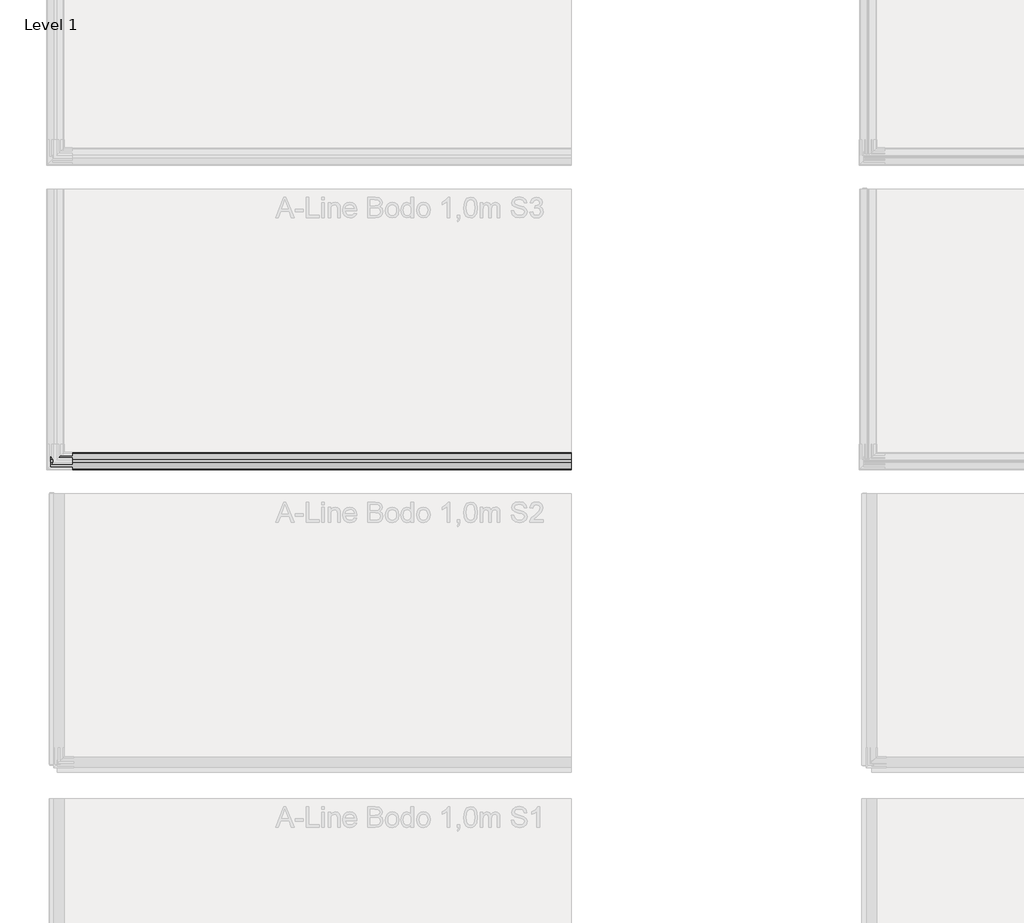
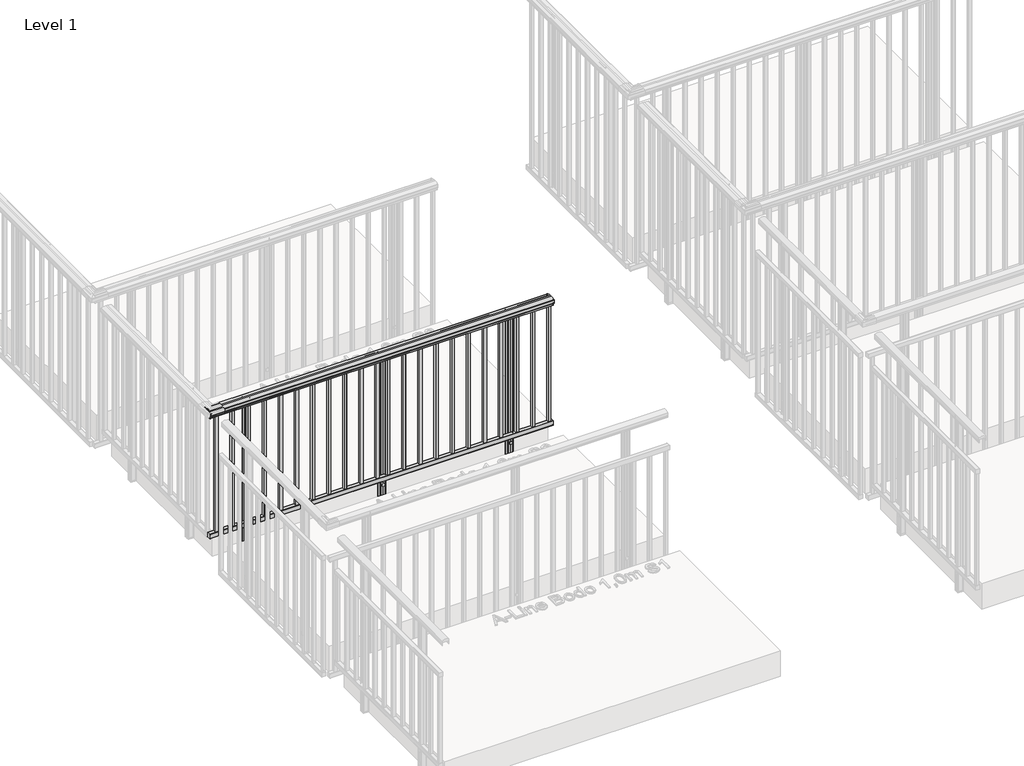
# One storey, part 9 of 66: 1 railing.
"""IFC4 building model written with IfcOpenShell, lengths in millimetres."""

from ifc_helpers import new_model, si_unit, point, frame, frame_2d, origin, place, context, project, spatial, polyline, circle_curve, trimmed, segment, composite_curve, outline, extrude, element, save

model = new_model("IFC4")

# Units and contexts
model_context = context("Model", 3, world=origin())
ifc_project = project(units=[si_unit("LENGTHUNIT", "METRE", prefix="MILLI")], contexts=[model_context])

# Site, building, storey
site = spatial("IfcSite", under=ifc_project)
building = spatial("IfcBuilding", under=site)
storey = spatial("IfcBuildingStorey", under=building, Name="Level 1", Elevation=0.0)

# Railing
placement = place(None, origin())
element("IfcRailing", 1, ObjectType="A-Line Bodo 1,0m S3", at=placement, inside=storey, context=model_context, shape_type="SweptSolid", body=[
    extrude(outline(composite_curve([segment(polyline([(-14649.7120598, 970.6825033), (-14649.7120598, 991.2139911)]), True, "CONTINUOUS"), segment(trimmed(circle_curve(frame_2d((-14646.7120598, 991.2139911)), 3.0), [point((-14649.7120598, 991.2139911))], [point((-14647.7785512, 994.0180233))], False, "CARTESIAN"), True, "CONTINUOUS"), segment(trimmed(circle_curve(frame_2d((-14615.2120598, 908.3938053)), 91.6083133), [point((-14647.7785512, 994.0180233))], [point((-14615.2120598, 1000.0021186))], False, "CARTESIAN"), True, "CONTINUOUS"), segment(polyline([(-14615.2120598, 1000.0021186), (-14602.2120598, 1000.0021186)]), True, "CONTINUOUS"), segment(trimmed(circle_curve(frame_2d((-14602.2120598, 908.3938053)), 91.6083133), [point((-14602.2120598, 1000.0021186))], [point((-14569.6455685, 994.0180233))], False, "CARTESIAN"), True, "CONTINUOUS"), segment(trimmed(circle_curve(frame_2d((-14570.7120598, 991.2139911)), 3.0), [point((-14569.6455685, 994.0180233))], [point((-14567.7120598, 991.2139911))], False, "CARTESIAN"), True, "CONTINUOUS"), segment(polyline([(-14567.7120598, 991.2139911), (-14567.7522522, 970.5325033), (-14568.3670352, 969.9177203), (-14567.7120598, 969.2627449), (-14567.7120598, 965.5021186)]), True, "CONTINUOUS"), segment(trimmed(circle_curve(frame_2d((-14568.2120598, 965.5021186)), 0.5), [point((-14567.7120598, 965.5021186))], [point((-14568.2120598, 965.0021186))], False, "CARTESIAN"), True, "CONTINUOUS"), segment(polyline([(-14568.2120598, 965.0021186), (-14569.2120598, 965.0021186), (-14569.2120598, 979.5021186)]), True, "CONTINUOUS"), segment(trimmed(circle_curve(frame_2d((-14569.7120598, 979.5021186)), 0.5), [point((-14569.2120598, 979.5021186))], [point((-14569.7120598, 980.0021186))], True, "CARTESIAN"), True, "CONTINUOUS"), segment(polyline([(-14569.7120598, 980.0021186), (-14647.7120598, 980.0021186)]), True, "CONTINUOUS"), segment(trimmed(circle_curve(frame_2d((-14647.7120598, 979.5021186)), 0.5), [point((-14647.7120598, 980.0021186))], [point((-14648.2120598, 979.5021186))], True, "CARTESIAN"), True, "CONTINUOUS"), segment(polyline([(-14648.2120598, 979.5021186), (-14648.2120598, 965.0021186), (-14649.2120598, 965.0021186)]), True, "CONTINUOUS"), segment(trimmed(circle_curve(frame_2d((-14649.2120598, 965.5021186)), 0.5), [point((-14649.2120598, 965.0021186))], [point((-14649.7120598, 965.5021186))], False, "CARTESIAN"), True, "CONTINUOUS"), segment(polyline([(-14649.7120598, 965.5021186), (-14649.6718675, 969.4717338), (-14649.0865789, 970.0570224), (-14649.7120598, 970.6825033)]), True, "CONTINUOUS")], self_intersect=False)), frame((4444.0547322, 0.0, 0.0), z_axis=(1.0, 0.0, 0.0), x_axis=(0.0, 1.0, 0.0)), (0.0, 0.0, 1.0), 2560.0),
    extrude(outline(composite_curve([segment(trimmed(circle_curve(frame_2d((-14638.2613559, 977.0)), 1.0), [point((-14639.2613559, 977.0))], [point((-14638.2613559, 978.0))], False, "CARTESIAN"), True, "CONTINUOUS"), segment(polyline([(-14638.2613559, 978.0), (-14611.1613559, 978.0)]), True, "CONTINUOUS"), segment(trimmed(circle_curve(frame_2d((-14611.1613559, 977.0)), 1.0), [point((-14611.1613559, 978.0))], [point((-14610.1613559, 977.0))], False, "CARTESIAN"), True, "CONTINUOUS"), segment(polyline([(-14610.1613559, 977.0), (-14610.1613559, 944.8)]), True, "CONTINUOUS"), segment(trimmed(circle_curve(frame_2d((-14611.1613559, 944.8)), 1.0), [point((-14610.1613559, 944.8))], [point((-14611.1613559, 943.8))], False, "CARTESIAN"), True, "CONTINUOUS"), segment(polyline([(-14611.1613559, 943.8), (-14638.2613559, 943.8)]), True, "CONTINUOUS"), segment(trimmed(circle_curve(frame_2d((-14638.2613559, 944.8)), 1.0), [point((-14638.2613559, 943.8))], [point((-14639.2613559, 944.8))], False, "CARTESIAN"), True, "CONTINUOUS"), segment(polyline([(-14639.2613559, 944.8), (-14639.2613559, 977.0)]), True, "CONTINUOUS")], self_intersect=False)), frame((4444.0547322, 0.0, 0.0), z_axis=(1.0, 0.0, 0.0), x_axis=(0.0, 1.0, 0.0)), (0.0, 0.0, 1.0), 2560.0),
    extrude(outline(composite_curve([segment(polyline([(-14638.2613559, 34.2), (-14611.1613559, 34.2)]), True, "CONTINUOUS"), segment(trimmed(circle_curve(frame_2d((-14611.1613559, 33.2)), 1.0), [point((-14611.1613559, 34.2))], [point((-14610.1613559, 33.2))], False, "CARTESIAN"), True, "CONTINUOUS"), segment(polyline([(-14610.1613559, 33.2), (-14610.1613559, 1.0)]), True, "CONTINUOUS"), segment(trimmed(circle_curve(frame_2d((-14611.1613559, 1.0)), 1.0), [point((-14610.1613559, 1.0))], [point((-14611.1613559, 0.0))], False, "CARTESIAN"), True, "CONTINUOUS"), segment(polyline([(-14611.1613559, 0.0), (-14638.2613559, 0.0)]), True, "CONTINUOUS"), segment(trimmed(circle_curve(frame_2d((-14638.2613559, 1.0)), 1.0), [point((-14638.2613559, 0.0))], [point((-14639.2613559, 1.0))], False, "CARTESIAN"), True, "CONTINUOUS"), segment(polyline([(-14639.2613559, 1.0), (-14639.2613559, 33.2)]), True, "CONTINUOUS"), segment(trimmed(circle_curve(frame_2d((-14638.2613559, 33.2)), 1.0), [point((-14639.2613559, 33.2))], [point((-14638.2613559, 34.2))], False, "CARTESIAN"), True, "CONTINUOUS")], self_intersect=False)), frame((4444.0547322, 0.0, 0.0), z_axis=(1.0, 0.0, 0.0), x_axis=(0.0, 1.0, 0.0)), (0.0, 0.0, 1.0), 2560.0),
    extrude(outline(polyline([(6969.0547322, -14634.7113559), (6969.0547322, -14614.7113559), (6989.0547322, -14614.7113559), (6989.0547322, -14634.7113559), (6969.0547322, -14634.7113559)]), holes=[polyline([(6971.0547322, -14632.7113559), (6987.0547322, -14632.7113559), (6987.0547322, -14616.7113559), (6971.0547322, -14616.7113559), (6971.0547322, -14632.7113559)])]), frame((0.0, 0.0, 34.0), z_axis=(0.0, 0.0, 1.0), x_axis=(1.0, 0.0, 0.0)), (0.0, 0.0, 1.0), 910.0),
    extrude(outline(polyline([(6849.0547322, -14634.7113559), (6849.0547322, -14614.7113559), (6869.0547322, -14614.7113559), (6869.0547322, -14634.7113559), (6849.0547322, -14634.7113559)]), holes=[polyline([(6851.0547322, -14632.7113559), (6867.0547322, -14632.7113559), (6867.0547322, -14616.7113559), (6851.0547322, -14616.7113559), (6851.0547322, -14632.7113559)])]), frame((0.0, 0.0, 34.0), z_axis=(0.0, 0.0, 1.0), x_axis=(1.0, 0.0, 0.0)), (0.0, 0.0, 1.0), 910.0),
    extrude(outline(polyline([(6729.0547322, -14634.7113559), (6729.0547322, -14614.7113559), (6749.0547322, -14614.7113559), (6749.0547322, -14634.7113559), (6729.0547322, -14634.7113559)]), holes=[polyline([(6731.0547322, -14632.7113559), (6747.0547322, -14632.7113559), (6747.0547322, -14616.7113559), (6731.0547322, -14616.7113559), (6731.0547322, -14632.7113559)])]), frame((0.0, 0.0, 34.0), z_axis=(0.0, 0.0, 1.0), x_axis=(1.0, 0.0, 0.0)), (0.0, 0.0, 1.0), 910.0),
    extrude(outline(polyline([(6609.0547322, -14634.7113559), (6609.0547322, -14614.7113559), (6629.0547322, -14614.7113559), (6629.0547322, -14634.7113559), (6609.0547322, -14634.7113559)]), holes=[polyline([(6611.0547322, -14632.7113559), (6627.0547322, -14632.7113559), (6627.0547322, -14616.7113559), (6611.0547322, -14616.7113559), (6611.0547322, -14632.7113559)])]), frame((0.0, 0.0, 34.0), z_axis=(0.0, 0.0, 1.0), x_axis=(1.0, 0.0, 0.0)), (0.0, 0.0, 1.0), 910.0),
    extrude(outline(polyline([(6489.0547322, -14634.7113559), (6489.0547322, -14614.7113559), (6509.0547322, -14614.7113559), (6509.0547322, -14634.7113559), (6489.0547322, -14634.7113559)]), holes=[polyline([(6491.0547322, -14632.7113559), (6507.0547322, -14632.7113559), (6507.0547322, -14616.7113559), (6491.0547322, -14616.7113559), (6491.0547322, -14632.7113559)])]), frame((0.0, 0.0, 34.0), z_axis=(0.0, 0.0, 1.0), x_axis=(1.0, 0.0, 0.0)), (0.0, 0.0, 1.0), 910.0),
    extrude(outline(polyline([(6369.0547322, -14634.7113559), (6369.0547322, -14614.7113559), (6389.0547322, -14614.7113559), (6389.0547322, -14634.7113559), (6369.0547322, -14634.7113559)]), holes=[polyline([(6371.0547322, -14632.7113559), (6387.0547322, -14632.7113559), (6387.0547322, -14616.7113559), (6371.0547322, -14616.7113559), (6371.0547322, -14632.7113559)])]), frame((0.0, 0.0, 34.0), z_axis=(0.0, 0.0, 1.0), x_axis=(1.0, 0.0, 0.0)), (0.0, 0.0, 1.0), 910.0),
    extrude(outline(polyline([(6249.0547322, -14634.7113559), (6249.0547322, -14614.7113559), (6269.0547322, -14614.7113559), (6269.0547322, -14634.7113559), (6249.0547322, -14634.7113559)]), holes=[polyline([(6251.0547322, -14632.7113559), (6267.0547322, -14632.7113559), (6267.0547322, -14616.7113559), (6251.0547322, -14616.7113559), (6251.0547322, -14632.7113559)])]), frame((0.0, 0.0, 34.0), z_axis=(0.0, 0.0, 1.0), x_axis=(1.0, 0.0, 0.0)), (0.0, 0.0, 1.0), 910.0),
    extrude(outline(polyline([(6129.0547322, -14634.7113559), (6129.0547322, -14614.7113559), (6149.0547322, -14614.7113559), (6149.0547322, -14634.7113559), (6129.0547322, -14634.7113559)]), holes=[polyline([(6131.0547322, -14632.7113559), (6147.0547322, -14632.7113559), (6147.0547322, -14616.7113559), (6131.0547322, -14616.7113559), (6131.0547322, -14632.7113559)])]), frame((0.0, 0.0, 34.0), z_axis=(0.0, 0.0, 1.0), x_axis=(1.0, 0.0, 0.0)), (0.0, 0.0, 1.0), 910.0),
    extrude(outline(polyline([(6009.0547322, -14634.7113559), (6009.0547322, -14614.7113559), (6029.0547322, -14614.7113559), (6029.0547322, -14634.7113559), (6009.0547322, -14634.7113559)]), holes=[polyline([(6011.0547322, -14632.7113559), (6027.0547322, -14632.7113559), (6027.0547322, -14616.7113559), (6011.0547322, -14616.7113559), (6011.0547322, -14632.7113559)])]), frame((0.0, 0.0, 34.0), z_axis=(0.0, 0.0, 1.0), x_axis=(1.0, 0.0, 0.0)), (0.0, 0.0, 1.0), 910.0),
    extrude(outline(polyline([(5889.0547322, -14634.7113559), (5889.0547322, -14614.7113559), (5909.0547322, -14614.7113559), (5909.0547322, -14634.7113559), (5889.0547322, -14634.7113559)]), holes=[polyline([(5891.0547322, -14632.7113559), (5907.0547322, -14632.7113559), (5907.0547322, -14616.7113559), (5891.0547322, -14616.7113559), (5891.0547322, -14632.7113559)])]), frame((0.0, 0.0, 34.0), z_axis=(0.0, 0.0, 1.0), x_axis=(1.0, 0.0, 0.0)), (0.0, 0.0, 1.0), 910.0),
    extrude(outline(polyline([(5769.0547322, -14634.7113559), (5769.0547322, -14614.7113559), (5789.0547322, -14614.7113559), (5789.0547322, -14634.7113559), (5769.0547322, -14634.7113559)]), holes=[polyline([(5771.0547322, -14632.7113559), (5787.0547322, -14632.7113559), (5787.0547322, -14616.7113559), (5771.0547322, -14616.7113559), (5771.0547322, -14632.7113559)])]), frame((0.0, 0.0, 34.0), z_axis=(0.0, 0.0, 1.0), x_axis=(1.0, 0.0, 0.0)), (0.0, 0.0, 1.0), 910.0),
    extrude(outline(polyline([(5689.0547322, -14634.7113559), (5689.0547322, -14614.7113559), (5709.0547322, -14614.7113559), (5709.0547322, -14634.7113559), (5689.0547322, -14634.7113559)]), holes=[polyline([(5691.0547322, -14632.7113559), (5707.0547322, -14632.7113559), (5707.0547322, -14616.7113559), (5691.0547322, -14616.7113559), (5691.0547322, -14632.7113559)])]), frame((0.0, 0.0, 34.0), z_axis=(0.0, 0.0, 1.0), x_axis=(1.0, 0.0, 0.0)), (0.0, 0.0, 1.0), 910.0),
    extrude(outline(polyline([(5569.0547322, -14634.7113559), (5569.0547322, -14614.7113559), (5589.0547322, -14614.7113559), (5589.0547322, -14634.7113559), (5569.0547322, -14634.7113559)]), holes=[polyline([(5571.0547322, -14632.7113559), (5587.0547322, -14632.7113559), (5587.0547322, -14616.7113559), (5571.0547322, -14616.7113559), (5571.0547322, -14632.7113559)])]), frame((0.0, 0.0, 34.0), z_axis=(0.0, 0.0, 1.0), x_axis=(1.0, 0.0, 0.0)), (0.0, 0.0, 1.0), 910.0),
    extrude(outline(polyline([(5449.0547322, -14634.7113559), (5449.0547322, -14614.7113559), (5469.0547322, -14614.7113559), (5469.0547322, -14634.7113559), (5449.0547322, -14634.7113559)]), holes=[polyline([(5451.0547322, -14632.7113559), (5467.0547322, -14632.7113559), (5467.0547322, -14616.7113559), (5451.0547322, -14616.7113559), (5451.0547322, -14632.7113559)])]), frame((0.0, 0.0, 34.0), z_axis=(0.0, 0.0, 1.0), x_axis=(1.0, 0.0, 0.0)), (0.0, 0.0, 1.0), 910.0),
    extrude(outline(polyline([(5329.0547322, -14634.7113559), (5329.0547322, -14614.7113559), (5349.0547322, -14614.7113559), (5349.0547322, -14634.7113559), (5329.0547322, -14634.7113559)]), holes=[polyline([(5331.0547322, -14632.7113559), (5347.0547322, -14632.7113559), (5347.0547322, -14616.7113559), (5331.0547322, -14616.7113559), (5331.0547322, -14632.7113559)])]), frame((0.0, 0.0, 34.0), z_axis=(0.0, 0.0, 1.0), x_axis=(1.0, 0.0, 0.0)), (0.0, 0.0, 1.0), 910.0),
    extrude(outline(polyline([(5209.0547322, -14634.7113559), (5209.0547322, -14614.7113559), (5229.0547322, -14614.7113559), (5229.0547322, -14634.7113559), (5209.0547322, -14634.7113559)]), holes=[polyline([(5211.0547322, -14632.7113559), (5227.0547322, -14632.7113559), (5227.0547322, -14616.7113559), (5211.0547322, -14616.7113559), (5211.0547322, -14632.7113559)])]), frame((0.0, 0.0, 34.0), z_axis=(0.0, 0.0, 1.0), x_axis=(1.0, 0.0, 0.0)), (0.0, 0.0, 1.0), 910.0),
    extrude(outline(polyline([(5089.0547322, -14634.7113559), (5089.0547322, -14614.7113559), (5109.0547322, -14614.7113559), (5109.0547322, -14634.7113559), (5089.0547322, -14634.7113559)]), holes=[polyline([(5091.0547322, -14632.7113559), (5107.0547322, -14632.7113559), (5107.0547322, -14616.7113559), (5091.0547322, -14616.7113559), (5091.0547322, -14632.7113559)])]), frame((0.0, 0.0, 34.0), z_axis=(0.0, 0.0, 1.0), x_axis=(1.0, 0.0, 0.0)), (0.0, 0.0, 1.0), 910.0),
    extrude(outline(polyline([(4969.0547322, -14634.7113559), (4969.0547322, -14614.7113559), (4989.0547322, -14614.7113559), (4989.0547322, -14634.7113559), (4969.0547322, -14634.7113559)]), holes=[polyline([(4971.0547322, -14632.7113559), (4987.0547322, -14632.7113559), (4987.0547322, -14616.7113559), (4971.0547322, -14616.7113559), (4971.0547322, -14632.7113559)])]), frame((0.0, 0.0, 34.0), z_axis=(0.0, 0.0, 1.0), x_axis=(1.0, 0.0, 0.0)), (0.0, 0.0, 1.0), 910.0),
    extrude(outline(polyline([(4849.0547322, -14634.7113559), (4849.0547322, -14614.7113559), (4869.0547322, -14614.7113559), (4869.0547322, -14634.7113559), (4849.0547322, -14634.7113559)]), holes=[polyline([(4851.0547322, -14632.7113559), (4867.0547322, -14632.7113559), (4867.0547322, -14616.7113559), (4851.0547322, -14616.7113559), (4851.0547322, -14632.7113559)])]), frame((0.0, 0.0, 34.0), z_axis=(0.0, 0.0, 1.0), x_axis=(1.0, 0.0, 0.0)), (0.0, 0.0, 1.0), 910.0),
    extrude(outline(polyline([(4729.0547322, -14634.7113559), (4729.0547322, -14614.7113559), (4749.0547322, -14614.7113559), (4749.0547322, -14634.7113559), (4729.0547322, -14634.7113559)]), holes=[polyline([(4731.0547322, -14632.7113559), (4747.0547322, -14632.7113559), (4747.0547322, -14616.7113559), (4731.0547322, -14616.7113559), (4731.0547322, -14632.7113559)])]), frame((0.0, 0.0, 34.0), z_axis=(0.0, 0.0, 1.0), x_axis=(1.0, 0.0, 0.0)), (0.0, 0.0, 1.0), 910.0),
    extrude(outline(polyline([(4609.0547322, -14634.7113559), (4609.0547322, -14614.7113559), (4629.0547322, -14614.7113559), (4629.0547322, -14634.7113559), (4609.0547322, -14634.7113559)]), holes=[polyline([(4611.0547322, -14632.7113559), (4627.0547322, -14632.7113559), (4627.0547322, -14616.7113559), (4611.0547322, -14616.7113559), (4611.0547322, -14632.7113559)])]), frame((0.0, 0.0, 34.0), z_axis=(0.0, 0.0, 1.0), x_axis=(1.0, 0.0, 0.0)), (0.0, 0.0, 1.0), 910.0),
    extrude(outline(polyline([(4489.0547322, -14634.7113559), (4489.0547322, -14614.7113559), (4509.0547322, -14614.7113559), (4509.0547322, -14634.7113559), (4489.0547322, -14634.7113559)]), holes=[polyline([(4491.0547322, -14632.7113559), (4507.0547322, -14632.7113559), (4507.0547322, -14616.7113559), (4491.0547322, -14616.7113559), (4491.0547322, -14632.7113559)])]), frame((0.0, 0.0, 34.0), z_axis=(0.0, 0.0, 1.0), x_axis=(1.0, 0.0, 0.0)), (0.0, 0.0, 1.0), 910.0),
    extrude(outline(composite_curve([segment(polyline([(5754.8575193, -14569.7113559), (5771.8808192, -14569.7113559)]), True, "CONTINUOUS"), segment(trimmed(circle_curve(frame_2d((5771.8808192, -14571.885269)), 2.173913), [point((5771.8808192, -14569.7113559))], [point((5774.0547322, -14571.885269))], False, "CARTESIAN"), True, "CONTINUOUS"), segment(polyline([(5774.0547322, -14571.885269), (5774.0547322, -14607.5374429)]), True, "CONTINUOUS"), segment(trimmed(circle_curve(frame_2d((5771.8808192, -14607.5374429)), 2.173913), [point((5774.0547322, -14607.5374429))], [point((5771.8808192, -14609.7113559))], False, "CARTESIAN"), True, "CONTINUOUS"), segment(polyline([(5771.8808192, -14609.7113559), (5754.8225694, -14609.676406), (5754.0547322, -14608.9085689), (5753.2868951, -14609.676406), (5736.2286453, -14609.7113559)]), True, "CONTINUOUS"), segment(trimmed(circle_curve(frame_2d((5736.2286453, -14607.5374429)), 2.173913), [point((5736.2286453, -14609.7113559))], [point((5734.0547322, -14607.5374429))], False, "CARTESIAN"), True, "CONTINUOUS"), segment(polyline([(5734.0547322, -14607.5374429), (5734.0547322, -14571.885269)]), True, "CONTINUOUS"), segment(trimmed(circle_curve(frame_2d((5736.2286453, -14571.885269)), 2.173913), [point((5734.0547322, -14571.885269))], [point((5736.2286452, -14569.7113559))], False, "CARTESIAN"), True, "CONTINUOUS"), segment(polyline([(5736.2286452, -14569.7113559), (5753.2868951, -14569.7463058), (5754.0547322, -14570.5141429), (5754.8575193, -14569.7113559)]), True, "CONTINUOUS")], self_intersect=False)), frame((0.0, 0.0, -200.0), z_axis=(0.0, 0.0, 1.0), x_axis=(1.0, 0.0, 0.0)), (0.0, 0.0, 1.0), 10.0),
    extrude(outline(composite_curve([segment(trimmed(circle_curve(frame_2d((5736.2286453, -14571.885269)), 2.173913), [point((5734.0547322, -14571.885269))], [point((5736.2286453, -14569.7113559))], False, "CARTESIAN"), True, "CONTINUOUS"), segment(polyline([(5736.2286453, -14569.7113559), (5753.2868951, -14569.7463058), (5754.185167, -14570.1143102), (5754.9530042, -14569.7113559), (5771.8808192, -14569.7113559)]), True, "CONTINUOUS"), segment(trimmed(circle_curve(frame_2d((5771.8808192, -14571.885269)), 2.173913), [point((5771.8808192, -14569.7113559))], [point((5774.0547322, -14571.885269))], False, "CARTESIAN"), True, "CONTINUOUS"), segment(polyline([(5774.0547322, -14571.885269), (5774.0547322, -14607.5374429)]), True, "CONTINUOUS"), segment(trimmed(circle_curve(frame_2d((5771.8808192, -14607.5374429)), 2.173913), [point((5774.0547322, -14607.5374429))], [point((5771.8808192, -14609.7113559))], False, "CARTESIAN"), True, "CONTINUOUS"), segment(polyline([(5771.8808192, -14609.7113559), (5754.8225694, -14609.676406), (5754.0547322, -14608.9085689), (5753.2868951, -14609.676406), (5736.2286453, -14609.7113559)]), True, "CONTINUOUS"), segment(trimmed(circle_curve(frame_2d((5736.2286453, -14607.5374429)), 2.173913), [point((5736.2286453, -14609.7113559))], [point((5734.0547322, -14607.5374429))], False, "CARTESIAN"), True, "CONTINUOUS"), segment(polyline([(5734.0547322, -14607.5374429), (5734.0547322, -14571.885269)]), True, "CONTINUOUS")], self_intersect=False), holes=[composite_curve([segment(polyline([(5737.5329931, -14574.059182), (5737.5329931, -14605.3635298)]), True, "CONTINUOUS"), segment(trimmed(circle_curve(frame_2d((5738.4025583, -14605.3635298)), 0.8695652), [point((5737.5329931, -14605.3635298))], [point((5738.4025583, -14606.233095))], True, "CARTESIAN"), True, "CONTINUOUS"), segment(polyline([(5738.4025583, -14606.233095), (5769.7069062, -14606.233095)]), True, "CONTINUOUS"), segment(trimmed(circle_curve(frame_2d((5769.7069062, -14605.3635298)), 0.8695652), [point((5769.7069062, -14606.233095))], [point((5770.5764714, -14605.3635298))], True, "CARTESIAN"), True, "CONTINUOUS"), segment(polyline([(5770.5764714, -14605.3635298), (5770.5764714, -14574.059182)]), True, "CONTINUOUS"), segment(trimmed(circle_curve(frame_2d((5769.7069062, -14574.059182)), 0.8695652), [point((5770.5764714, -14574.059182))], [point((5769.7069062, -14573.1896168))], True, "CARTESIAN"), True, "CONTINUOUS"), segment(polyline([(5769.7069062, -14573.1896168), (5738.4025583, -14573.1896168)]), True, "CONTINUOUS"), segment(trimmed(circle_curve(frame_2d((5738.4025583, -14574.059182)), 0.8695652), [point((5738.4025583, -14573.1896168))], [point((5737.5329931, -14574.059182))], True, "CARTESIAN"), True, "CONTINUOUS")], self_intersect=False)]), frame((0.0, 0.0, -190.0), z_axis=(0.0, 0.0, 1.0), x_axis=(1.0, 0.0, 0.0)), (0.0, 0.0, 1.0), 1170.0),
    extrude(outline(composite_curve([segment(trimmed(circle_curve(frame_2d((0.0, 12.0)), 12.0), [point((0.0, 23.9999999))], [point((0.0, 0.0))], False, "CARTESIAN"), True, "CONTINUOUS"), segment(trimmed(circle_curve(frame_2d((0.0, 12.0)), 12.0), [point((0.0, 0.0))], [point((0.0, 23.9999999))], False, "CARTESIAN"), True, "CONTINUOUS")], self_intersect=False)), frame((5742.0444554, -14612.7751851, -151.0), z_axis=(0.0004029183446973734, 0.9999999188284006, 0.0), x_axis=(0.0, 0.0, 1.0)), (0.0, 0.0, 1.0), 3.0757477),
    extrude(outline(composite_curve([segment(trimmed(circle_curve(frame_2d((0.0, 12.0)), 12.0), [point((0.0, 23.9999999))], [point((0.0, 0.0))], False, "CARTESIAN"), True, "CONTINUOUS"), segment(trimmed(circle_curve(frame_2d((0.0, 12.0)), 12.0), [point((0.0, 0.0))], [point((0.0, 23.9999999))], False, "CARTESIAN"), True, "CONTINUOUS")], self_intersect=False)), frame((5742.0444554, -14612.7751851, -50.0), z_axis=(0.0004029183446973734, 0.9999999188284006, 0.0), x_axis=(0.0, 0.0, 1.0)), (0.0, 0.0, 1.0), 3.0757477),
    extrude(outline(composite_curve([segment(polyline([(6704.8575193, -14569.7113559), (6721.8808192, -14569.7113559)]), True, "CONTINUOUS"), segment(trimmed(circle_curve(frame_2d((6721.8808192, -14571.885269)), 2.173913), [point((6721.8808192, -14569.7113559))], [point((6724.0547322, -14571.885269))], False, "CARTESIAN"), True, "CONTINUOUS"), segment(polyline([(6724.0547322, -14571.885269), (6724.0547322, -14607.5374429)]), True, "CONTINUOUS"), segment(trimmed(circle_curve(frame_2d((6721.8808192, -14607.5374429)), 2.173913), [point((6724.0547322, -14607.5374429))], [point((6721.8808192, -14609.7113559))], False, "CARTESIAN"), True, "CONTINUOUS"), segment(polyline([(6721.8808192, -14609.7113559), (6704.8225694, -14609.676406), (6704.0547322, -14608.9085689), (6703.2868951, -14609.676406), (6686.2286453, -14609.7113559)]), True, "CONTINUOUS"), segment(trimmed(circle_curve(frame_2d((6686.2286453, -14607.5374429)), 2.173913), [point((6686.2286453, -14609.7113559))], [point((6684.0547322, -14607.5374429))], False, "CARTESIAN"), True, "CONTINUOUS"), segment(polyline([(6684.0547322, -14607.5374429), (6684.0547322, -14571.885269)]), True, "CONTINUOUS"), segment(trimmed(circle_curve(frame_2d((6686.2286453, -14571.885269)), 2.173913), [point((6684.0547322, -14571.885269))], [point((6686.2286452, -14569.7113559))], False, "CARTESIAN"), True, "CONTINUOUS"), segment(polyline([(6686.2286452, -14569.7113559), (6703.2868951, -14569.7463058), (6704.0547322, -14570.5141429), (6704.8575193, -14569.7113559)]), True, "CONTINUOUS")], self_intersect=False)), frame((0.0, 0.0, -200.0), z_axis=(0.0, 0.0, 1.0), x_axis=(1.0, 0.0, 0.0)), (0.0, 0.0, 1.0), 10.0),
    extrude(outline(composite_curve([segment(trimmed(circle_curve(frame_2d((6686.2286453, -14571.885269)), 2.173913), [point((6684.0547322, -14571.885269))], [point((6686.2286453, -14569.7113559))], False, "CARTESIAN"), True, "CONTINUOUS"), segment(polyline([(6686.2286453, -14569.7113559), (6703.2868951, -14569.7463058), (6704.185167, -14570.1143102), (6704.9530042, -14569.7113559), (6721.8808192, -14569.7113559)]), True, "CONTINUOUS"), segment(trimmed(circle_curve(frame_2d((6721.8808192, -14571.885269)), 2.173913), [point((6721.8808192, -14569.7113559))], [point((6724.0547322, -14571.885269))], False, "CARTESIAN"), True, "CONTINUOUS"), segment(polyline([(6724.0547322, -14571.885269), (6724.0547322, -14607.5374429)]), True, "CONTINUOUS"), segment(trimmed(circle_curve(frame_2d((6721.8808192, -14607.5374429)), 2.173913), [point((6724.0547322, -14607.5374429))], [point((6721.8808192, -14609.7113559))], False, "CARTESIAN"), True, "CONTINUOUS"), segment(polyline([(6721.8808192, -14609.7113559), (6704.8225694, -14609.676406), (6704.0547322, -14608.9085689), (6703.2868951, -14609.676406), (6686.2286453, -14609.7113559)]), True, "CONTINUOUS"), segment(trimmed(circle_curve(frame_2d((6686.2286453, -14607.5374429)), 2.173913), [point((6686.2286453, -14609.7113559))], [point((6684.0547322, -14607.5374429))], False, "CARTESIAN"), True, "CONTINUOUS"), segment(polyline([(6684.0547322, -14607.5374429), (6684.0547322, -14571.885269)]), True, "CONTINUOUS")], self_intersect=False), holes=[composite_curve([segment(polyline([(6687.5329931, -14574.059182), (6687.5329931, -14605.3635298)]), True, "CONTINUOUS"), segment(trimmed(circle_curve(frame_2d((6688.4025583, -14605.3635298)), 0.8695652), [point((6687.5329931, -14605.3635298))], [point((6688.4025583, -14606.233095))], True, "CARTESIAN"), True, "CONTINUOUS"), segment(polyline([(6688.4025583, -14606.233095), (6719.7069062, -14606.233095)]), True, "CONTINUOUS"), segment(trimmed(circle_curve(frame_2d((6719.7069062, -14605.3635298)), 0.8695652), [point((6719.7069062, -14606.233095))], [point((6720.5764714, -14605.3635298))], True, "CARTESIAN"), True, "CONTINUOUS"), segment(polyline([(6720.5764714, -14605.3635298), (6720.5764714, -14574.059182)]), True, "CONTINUOUS"), segment(trimmed(circle_curve(frame_2d((6719.7069062, -14574.059182)), 0.8695652), [point((6720.5764714, -14574.059182))], [point((6719.7069062, -14573.1896168))], True, "CARTESIAN"), True, "CONTINUOUS"), segment(polyline([(6719.7069062, -14573.1896168), (6688.4025583, -14573.1896168)]), True, "CONTINUOUS"), segment(trimmed(circle_curve(frame_2d((6688.4025583, -14574.059182)), 0.8695652), [point((6688.4025583, -14573.1896168))], [point((6687.5329931, -14574.059182))], True, "CARTESIAN"), True, "CONTINUOUS")], self_intersect=False)]), frame((0.0, 0.0, -190.0), z_axis=(0.0, 0.0, 1.0), x_axis=(1.0, 0.0, 0.0)), (0.0, 0.0, 1.0), 1171.0),
    extrude(outline(composite_curve([segment(trimmed(circle_curve(frame_2d((0.0, 12.0)), 12.0), [point((0.0, 23.9999999))], [point((0.0, 0.0))], False, "CARTESIAN"), True, "CONTINUOUS"), segment(trimmed(circle_curve(frame_2d((0.0, 12.0)), 12.0), [point((0.0, 0.0))], [point((0.0, 23.9999999))], False, "CARTESIAN"), True, "CONTINUOUS")], self_intersect=False)), frame((6692.0444554, -14612.7751851, -151.0), z_axis=(0.00040291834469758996, 0.9999999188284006, 0.0), x_axis=(0.0, 0.0, 1.0)), (0.0, 0.0, 1.0), 3.0757477),
    extrude(outline(composite_curve([segment(trimmed(circle_curve(frame_2d((0.0, 12.0)), 12.0), [point((0.0, 23.9999999))], [point((0.0, 0.0))], False, "CARTESIAN"), True, "CONTINUOUS"), segment(trimmed(circle_curve(frame_2d((0.0, 12.0)), 12.0), [point((0.0, 0.0))], [point((0.0, 23.9999999))], False, "CARTESIAN"), True, "CONTINUOUS")], self_intersect=False)), frame((6692.0444554, -14612.7751851, -50.0), z_axis=(0.00040291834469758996, 0.9999999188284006, 0.0), x_axis=(0.0, 0.0, 1.0)), (0.0, 0.0, 1.0), 3.0757477),
    extrude(outline(composite_curve([segment(polyline([(4744.8575193, -14569.7113559), (4761.8808192, -14569.7113559)]), True, "CONTINUOUS"), segment(trimmed(circle_curve(frame_2d((4761.8808192, -14571.885269)), 2.173913), [point((4761.8808192, -14569.7113559))], [point((4764.0547322, -14571.885269))], False, "CARTESIAN"), True, "CONTINUOUS"), segment(polyline([(4764.0547322, -14571.885269), (4764.0547322, -14607.5374429)]), True, "CONTINUOUS"), segment(trimmed(circle_curve(frame_2d((4761.8808192, -14607.5374429)), 2.173913), [point((4764.0547322, -14607.5374429))], [point((4761.8808192, -14609.7113559))], False, "CARTESIAN"), True, "CONTINUOUS"), segment(polyline([(4761.8808192, -14609.7113559), (4744.8225694, -14609.676406), (4744.0547322, -14608.9085689), (4743.2868951, -14609.676406), (4726.2286453, -14609.7113559)]), True, "CONTINUOUS"), segment(trimmed(circle_curve(frame_2d((4726.2286453, -14607.5374429)), 2.173913), [point((4726.2286453, -14609.7113559))], [point((4724.0547322, -14607.5374429))], False, "CARTESIAN"), True, "CONTINUOUS"), segment(polyline([(4724.0547322, -14607.5374429), (4724.0547322, -14571.885269)]), True, "CONTINUOUS"), segment(trimmed(circle_curve(frame_2d((4726.2286453, -14571.885269)), 2.173913), [point((4724.0547322, -14571.885269))], [point((4726.2286452, -14569.7113559))], False, "CARTESIAN"), True, "CONTINUOUS"), segment(polyline([(4726.2286452, -14569.7113559), (4743.2868951, -14569.7463058), (4744.0547322, -14570.5141429), (4744.8575193, -14569.7113559)]), True, "CONTINUOUS")], self_intersect=False)), frame((0.0, 0.0, -200.0), z_axis=(0.0, 0.0, 1.0), x_axis=(1.0, 0.0, 0.0)), (0.0, 0.0, 1.0), 10.0),
    extrude(outline(composite_curve([segment(trimmed(circle_curve(frame_2d((4726.2286453, -14571.885269)), 2.173913), [point((4724.0547322, -14571.885269))], [point((4726.2286453, -14569.7113559))], False, "CARTESIAN"), True, "CONTINUOUS"), segment(polyline([(4726.2286453, -14569.7113559), (4743.2868951, -14569.7463058), (4744.185167, -14570.1143102), (4744.9530042, -14569.7113559), (4761.8808192, -14569.7113559)]), True, "CONTINUOUS"), segment(trimmed(circle_curve(frame_2d((4761.8808192, -14571.885269)), 2.173913), [point((4761.8808192, -14569.7113559))], [point((4764.0547322, -14571.885269))], False, "CARTESIAN"), True, "CONTINUOUS"), segment(polyline([(4764.0547322, -14571.885269), (4764.0547322, -14607.5374429)]), True, "CONTINUOUS"), segment(trimmed(circle_curve(frame_2d((4761.8808192, -14607.5374429)), 2.173913), [point((4764.0547322, -14607.5374429))], [point((4761.8808192, -14609.7113559))], False, "CARTESIAN"), True, "CONTINUOUS"), segment(polyline([(4761.8808192, -14609.7113559), (4744.8225694, -14609.676406), (4744.0547322, -14608.9085689), (4743.2868951, -14609.676406), (4726.2286453, -14609.7113559)]), True, "CONTINUOUS"), segment(trimmed(circle_curve(frame_2d((4726.2286453, -14607.5374429)), 2.173913), [point((4726.2286453, -14609.7113559))], [point((4724.0547322, -14607.5374429))], False, "CARTESIAN"), True, "CONTINUOUS"), segment(polyline([(4724.0547322, -14607.5374429), (4724.0547322, -14571.885269)]), True, "CONTINUOUS")], self_intersect=False), holes=[composite_curve([segment(polyline([(4727.5329931, -14574.059182), (4727.5329931, -14605.3635298)]), True, "CONTINUOUS"), segment(trimmed(circle_curve(frame_2d((4728.4025583, -14605.3635298)), 0.8695652), [point((4727.5329931, -14605.3635298))], [point((4728.4025583, -14606.233095))], True, "CARTESIAN"), True, "CONTINUOUS"), segment(polyline([(4728.4025583, -14606.233095), (4759.7069062, -14606.233095)]), True, "CONTINUOUS"), segment(trimmed(circle_curve(frame_2d((4759.7069062, -14605.3635298)), 0.8695652), [point((4759.7069062, -14606.233095))], [point((4760.5764714, -14605.3635298))], True, "CARTESIAN"), True, "CONTINUOUS"), segment(polyline([(4760.5764714, -14605.3635298), (4760.5764714, -14574.059182)]), True, "CONTINUOUS"), segment(trimmed(circle_curve(frame_2d((4759.7069062, -14574.059182)), 0.8695652), [point((4760.5764714, -14574.059182))], [point((4759.7069062, -14573.1896168))], True, "CARTESIAN"), True, "CONTINUOUS"), segment(polyline([(4759.7069062, -14573.1896168), (4728.4025583, -14573.1896168)]), True, "CONTINUOUS"), segment(trimmed(circle_curve(frame_2d((4728.4025583, -14574.059182)), 0.8695652), [point((4728.4025583, -14573.1896168))], [point((4727.5329931, -14574.059182))], True, "CARTESIAN"), True, "CONTINUOUS")], self_intersect=False)]), frame((0.0, 0.0, -190.0), z_axis=(0.0, 0.0, 1.0), x_axis=(1.0, 0.0, 0.0)), (0.0, 0.0, 1.0), 1171.0),
    extrude(outline(composite_curve([segment(trimmed(circle_curve(frame_2d((0.0, 12.0)), 12.0), [point((0.0, 23.9999999))], [point((0.0, 0.0))], False, "CARTESIAN"), True, "CONTINUOUS"), segment(trimmed(circle_curve(frame_2d((0.0, 12.0)), 12.0), [point((0.0, 0.0))], [point((0.0, 23.9999999))], False, "CARTESIAN"), True, "CONTINUOUS")], self_intersect=False)), frame((4732.0444554, -14612.7751851, -151.0), z_axis=(0.0004029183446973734, 0.9999999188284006, 0.0), x_axis=(0.0, 0.0, 1.0)), (0.0, 0.0, 1.0), 3.0757477),
    extrude(outline(composite_curve([segment(trimmed(circle_curve(frame_2d((0.0, 12.0)), 12.0), [point((0.0, 23.9999999))], [point((0.0, 0.0))], False, "CARTESIAN"), True, "CONTINUOUS"), segment(trimmed(circle_curve(frame_2d((0.0, 12.0)), 12.0), [point((0.0, 0.0))], [point((0.0, 23.9999999))], False, "CARTESIAN"), True, "CONTINUOUS")], self_intersect=False)), frame((4732.0444554, -14612.7751851, -50.0), z_axis=(0.0004029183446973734, 0.9999999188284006, 0.0), x_axis=(0.0, 0.0, 1.0)), (0.0, 0.0, 1.0), 3.0757477),
])

save(model, "model.ifc")
